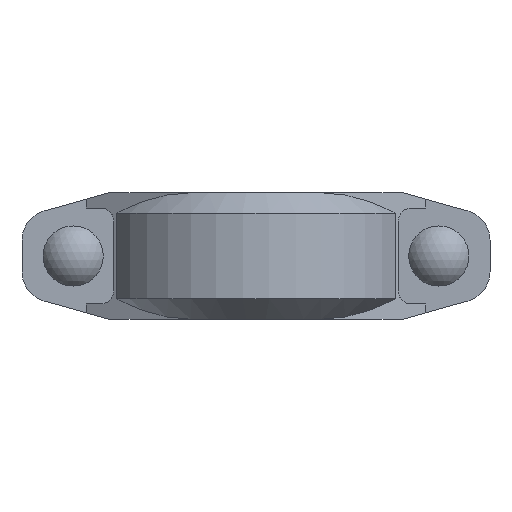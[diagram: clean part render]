
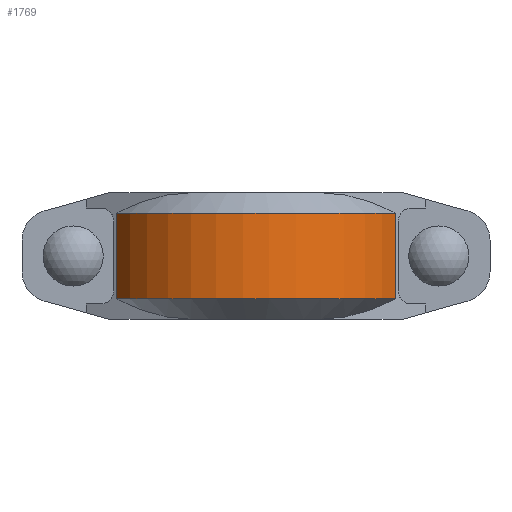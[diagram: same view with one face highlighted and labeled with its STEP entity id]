
A CAD part, front view. The second image highlights one B-rep face of the part: STEP entity #1769.
In plain terms, the highlighted cylindrical face has radius 57.658 mm (diameter 115.316 mm), a partial arc.
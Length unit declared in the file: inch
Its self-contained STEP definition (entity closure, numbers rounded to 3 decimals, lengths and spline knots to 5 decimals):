
#206=FACE_OUTER_BOUND('',#303,.T.);
#303=EDGE_LOOP('',(#1497,#1498,#1499,#1500));
#378=LINE('',#2666,#535);
#434=LINE('',#2829,#591);
#535=VECTOR('',#2139,0.3937);
#591=VECTOR('',#2271,0.3937);
#677=CIRCLE('',#1911,2.27);
#681=CIRCLE('',#1918,2.27);
#764=VERTEX_POINT('',#2661);
#765=VERTEX_POINT('',#2665);
#821=VERTEX_POINT('',#2824);
#822=VERTEX_POINT('',#2828);
#946=EDGE_CURVE('',#765,#764,#378,.T.);
#1021=EDGE_CURVE('',#822,#821,#434,.T.);
#1042=EDGE_CURVE('',#764,#822,#677,.T.);
#1049=EDGE_CURVE('',#765,#821,#681,.T.);
#1497=ORIENTED_EDGE('',*,*,#946,.T.);
#1498=ORIENTED_EDGE('',*,*,#1042,.T.);
#1499=ORIENTED_EDGE('',*,*,#1021,.T.);
#1500=ORIENTED_EDGE('',*,*,#1049,.F.);
#1601=CYLINDRICAL_SURFACE('',#1935,2.27);
#1769=ADVANCED_FACE('',(#206),#1601,.T.);
#1911=AXIS2_PLACEMENT_3D('',#2866,#2310,#2311);
#1918=AXIS2_PLACEMENT_3D('',#2880,#2327,#2328);
#1935=AXIS2_PLACEMENT_3D('',#2919,#2375,#2376);
#2139=DIRECTION('',(0.,0.,1.));
#2271=DIRECTION('',(0.,0.,-1.));
#2310=DIRECTION('center_axis',(0.,0.,-1.));
#2311=DIRECTION('ref_axis',(0.,-1.,0.));
#2327=DIRECTION('center_axis',(0.,0.,-1.));
#2328=DIRECTION('ref_axis',(0.,-1.,0.));
#2375=DIRECTION('center_axis',(0.,0.,-1.));
#2376=DIRECTION('ref_axis',(0.,-1.,0.));
#2661=CARTESIAN_POINT('',(2.03698,-1.0018,0.625));
#2665=CARTESIAN_POINT('',(2.03698,-1.0018,-0.625));
#2666=CARTESIAN_POINT('',(2.03698,-1.0018,0.));
#2824=CARTESIAN_POINT('',(-2.03698,-1.0018,-0.625));
#2828=CARTESIAN_POINT('',(-2.03698,-1.0018,0.625));
#2829=CARTESIAN_POINT('',(-2.03698,-1.0018,0.));
#2866=CARTESIAN_POINT('Origin',(0.,0.,0.625));
#2880=CARTESIAN_POINT('Origin',(0.,0.,-0.625));
#2919=CARTESIAN_POINT('Origin',(0.,0.,0.));
